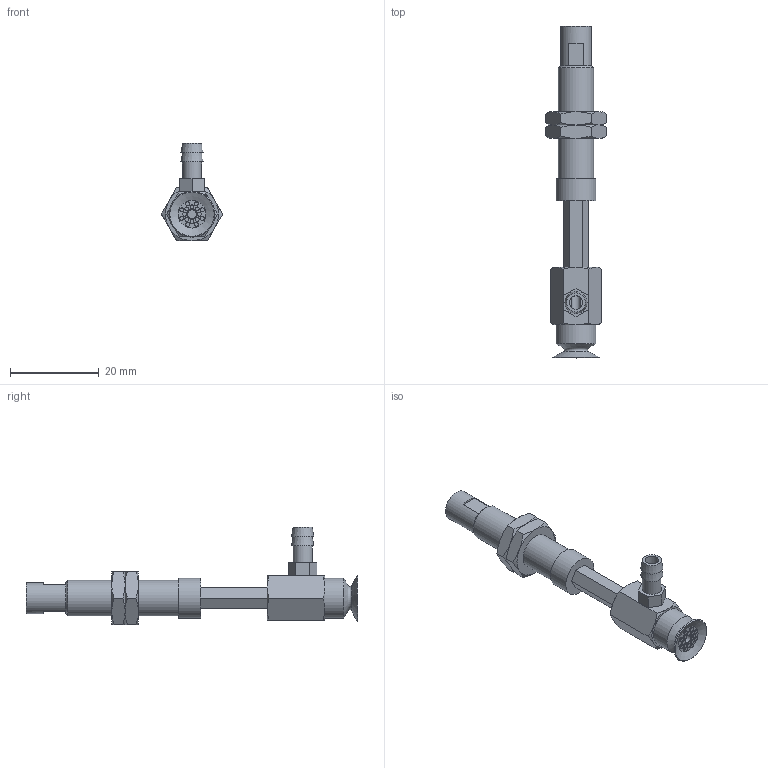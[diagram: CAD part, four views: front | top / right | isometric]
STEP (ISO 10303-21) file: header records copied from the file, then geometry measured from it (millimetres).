
FILE_DESCRIPTION(('STEP AP203'),'1');
FILE_NAME('-T.stp','2025-03-13T02:53:46',(' '),(' '),'Spatial InterOp 3D',' ',' ');
FILE_SCHEMA(('CONFIG_CONTROL_DESIGN'));
Length unit declared in the file: millimetre
Products named in the file (7): BNABPAYH-10A-15-※-T; NAPATH-10A-15--M; NAPATH-10A-15--F; Nut-10A-S; CONNECTOR-10A-15-PA; CONNECTOR-10A-3-T-PA; BPAG-10A-※
Assembly tree (7 placements, depth 2):
  BNABPAYH-10A-15-※-T
    NAPATH-10A-15--M
    NAPATH-10A-15--F
    Nut-10A-S  x2
    CONNECTOR-10A-15-PA
    CONNECTOR-10A-3-T-PA
    BPAG-10A-※
Bounding box: 13.86 x 75 x 22 mm (x, y, z)
Volume: 4107.5 mm3; surface area: 5283.7 mm2
Topology: 7 solids, 7 shells, 189 faces, 384 edges, 238 vertices
Faces by surface type: plane 91, cone 54, cylinder 34, torus 10
Full cylindrical faces by diameter (mm): 0.9 x16, 2 x2, 3 x1, 4 x2, 4.134 x2, 4.3 x1, 5 x2, 6 x2, 7 x1, 7.188 x2, 8 x1, 9 x2
Entity records: 4566 total; most frequent: CARTESIAN_POINT 994, DIRECTION 686, ORIENTED_EDGE 540, AXIS2_PLACEMENT_3D 296, EDGE_CURVE 270, EDGE_LOOP 264, FACE_OUTER_BOUND 209, VERTEX_POINT 202
